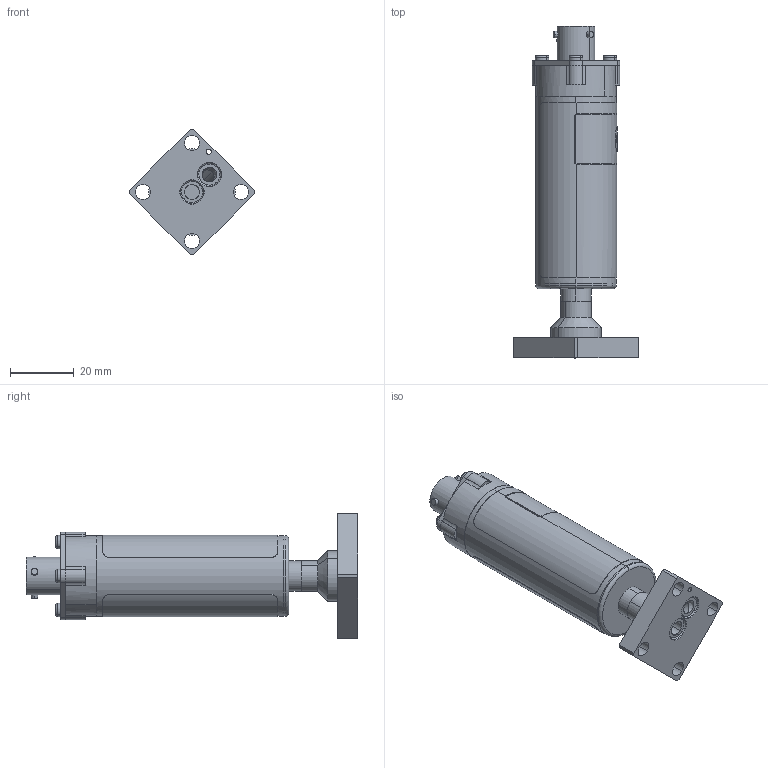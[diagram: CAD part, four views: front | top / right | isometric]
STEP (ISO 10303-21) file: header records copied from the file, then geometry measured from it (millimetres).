
FILE_DESCRIPTION (( 'STEP AP214' ), '1' );
FILE_NAME ('GSD-XXXXXX-B-XXX-CS.STEP', '2025-06-23T12:43:04', ( '' ), ( '' ), 'SwSTEP 2.0', 'SolidWorks 2023', '' );
FILE_SCHEMA (( 'AUTOMOTIVE_DESIGN' ));
Length unit declared in the file: inch
Products named in the file (4): GSD-XXXXXX-B-XXX-CS; GS B; GSx Body_Integrated Connector; 333127(1.125 CS)
Assembly tree (3 placements, depth 2):
  GSD-XXXXXX-B-XXX-CS
    GSx Body_Integrated Connector
    GS B
    333127(1.125 CS)
Bounding box: 39.33 x 104.32 x 39.33 mm (x, y, z)
Volume: 19075.7 mm3; surface area: 18732.9 mm2
Topology: 9 solids, 9 shells, 409 faces, 1006 edges, 650 vertices
Faces by surface type: plane 173, cylinder 150, bspline 44, cone 26, torus 16
Entity records: 16665 total; most frequent: CARTESIAN_POINT 6863, ORIENTED_EDGE 2004, DIRECTION 1953, EDGE_CURVE 1002, AXIS2_PLACEMENT_3D 738, VERTEX_POINT 650, LINE 477, VECTOR 477
